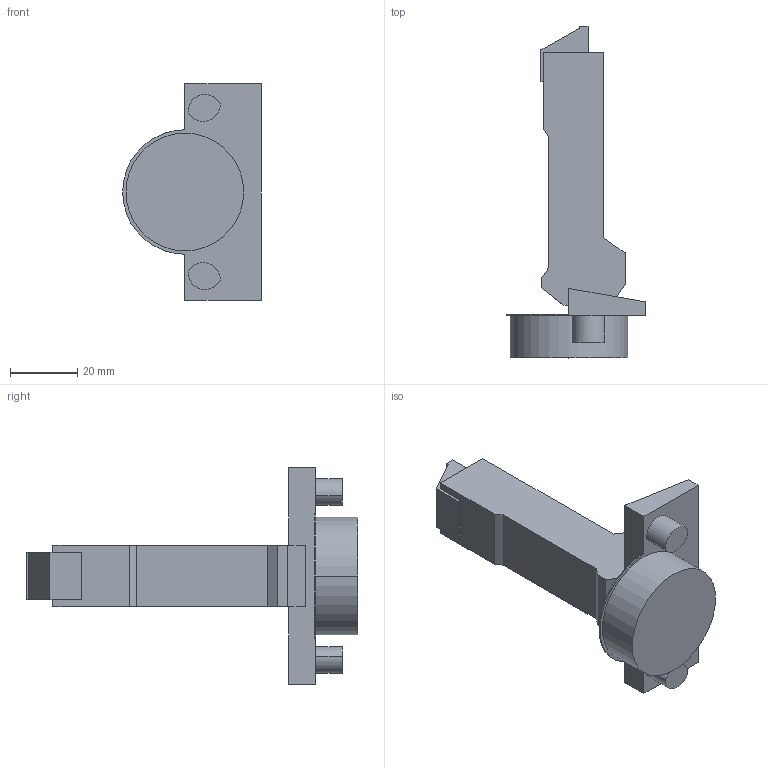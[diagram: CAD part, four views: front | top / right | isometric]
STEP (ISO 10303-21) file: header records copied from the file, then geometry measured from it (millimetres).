
FILE_DESCRIPTION (( 'STEP AP214' ), '1' );
FILE_NAME ('Scharnier TS Impresso 110° HS_BB, K95.step', '2018-09-12T09:11:31', ( '' ), ( '' ), 'SwSTEP 2.0', 'SolidWorks 2017', '' );
FILE_SCHEMA (( 'AUTOMOTIVE_DESIGN' ));
Length unit declared in the file: millimetre
Products named in the file (1): Scharnier TS Impresso 110° HS_BB, K95
Bounding box: 41.25 x 98.7 x 64.5 mm (x, y, z)
Volume: 46933.8 mm3; surface area: 12782.3 mm2
Topology: 1 solids, 1 shells, 53 faces, 135 edges, 90 vertices
Faces by surface type: plane 38, cylinder 15
Entity records: 1633 total; most frequent: CARTESIAN_POINT 279, DIRECTION 273, ORIENTED_EDGE 270, EDGE_CURVE 135, LINE 105, VECTOR 105, VERTEX_POINT 90, AXIS2_PLACEMENT_3D 84
